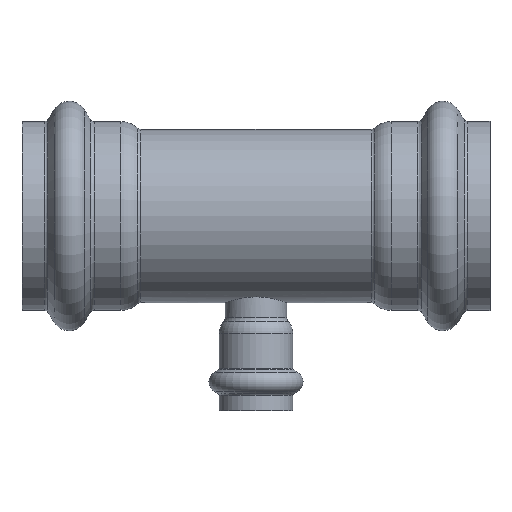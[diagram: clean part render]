
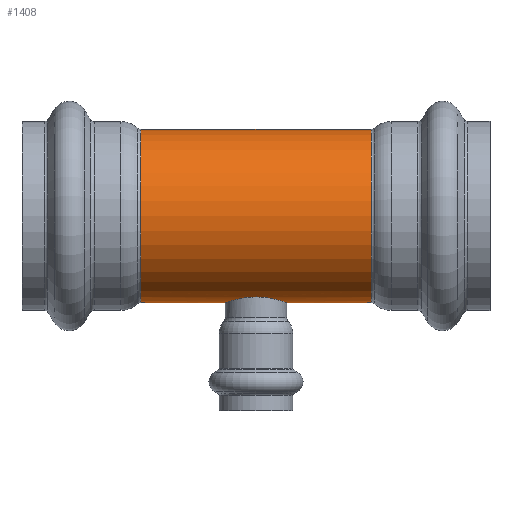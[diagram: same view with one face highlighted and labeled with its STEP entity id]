
A CAD part, top view. The second image highlights one B-rep face of the part: STEP entity #1408.
In plain terms, the highlighted cylindrical face has radius 30.163 mm (diameter 60.325 mm), a full revolution.
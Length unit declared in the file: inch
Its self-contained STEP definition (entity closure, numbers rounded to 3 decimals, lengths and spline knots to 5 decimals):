
#134=FACE_OUTER_BOUND('',#197,.T.);
#197=EDGE_LOOP('',(#1132,#1133,#1134,#1135,#1136,#1137,#1138,#1139,#1140,
#1141,#1142,#1143,#1144,#1145));
#334=CIRCLE('',#1605,1.1875);
#335=CIRCLE('',#1606,1.1875);
#336=CIRCLE('',#1607,1.1875);
#337=CIRCLE('',#1609,1.1875);
#338=CIRCLE('',#1610,1.1875);
#339=CIRCLE('',#1611,1.1875);
#420=LINE('',#2622,#450);
#421=LINE('',#2623,#451);
#450=VECTOR('',#2052,1.1875);
#451=VECTOR('',#2053,1.1875);
#460=B_SPLINE_CURVE_WITH_KNOTS('',3,(#2252,#2253,#2254,#2255,#2256,#2257,
#2258,#2259,#2260,#2261),.UNSPECIFIED.,.F.,.F.,(4,2,2,2,4),(0.,0.4058,
0.8116,1.21715,1.62271),.UNSPECIFIED.);
#461=B_SPLINE_CURVE_WITH_KNOTS('',3,(#2263,#2264,#2265,#2266,#2267,#2268,
#2269,#2270,#2271,#2272),.UNSPECIFIED.,.F.,.F.,(4,2,2,2,4),(4.86813,
5.27368,5.67924,6.08504,6.49084),
 .UNSPECIFIED.);
#462=B_SPLINE_CURVE_WITH_KNOTS('',3,(#2274,#2275,#2276,#2277,#2278,#2279,
#2280,#2281,#2282,#2283),.UNSPECIFIED.,.F.,.F.,(4,2,2,2,4),(3.24542,
3.65122,4.05701,4.46257,4.86813),
 .UNSPECIFIED.);
#463=B_SPLINE_CURVE_WITH_KNOTS('',3,(#2289,#2290,#2291,#2292,#2293,#2294,
#2295,#2296,#2297,#2298),.UNSPECIFIED.,.F.,.F.,(4,2,2,2,4),(1.62271,
2.02827,2.43382,2.83962,3.24542),
 .UNSPECIFIED.);
#468=VERTEX_POINT('',#2250);
#469=VERTEX_POINT('',#2251);
#470=VERTEX_POINT('',#2262);
#471=VERTEX_POINT('',#2273);
#572=VERTEX_POINT('',#2609);
#573=VERTEX_POINT('',#2611);
#574=VERTEX_POINT('',#2613);
#575=VERTEX_POINT('',#2617);
#576=VERTEX_POINT('',#2618);
#577=VERTEX_POINT('',#2620);
#628=EDGE_CURVE('',#468,#469,#460,.T.);
#629=EDGE_CURVE('',#470,#468,#461,.T.);
#630=EDGE_CURVE('',#471,#470,#462,.T.);
#634=EDGE_CURVE('',#469,#471,#463,.T.);
#772=EDGE_CURVE('',#573,#572,#334,.T.);
#773=EDGE_CURVE('',#574,#573,#335,.T.);
#774=EDGE_CURVE('',#572,#574,#336,.T.);
#775=EDGE_CURVE('',#575,#576,#337,.T.);
#776=EDGE_CURVE('',#577,#575,#338,.T.);
#777=EDGE_CURVE('',#577,#469,#420,.T.);
#778=EDGE_CURVE('',#470,#574,#421,.T.);
#779=EDGE_CURVE('',#576,#577,#339,.T.);
#1132=ORIENTED_EDGE('',*,*,#775,.F.);
#1133=ORIENTED_EDGE('',*,*,#776,.F.);
#1134=ORIENTED_EDGE('',*,*,#777,.T.);
#1135=ORIENTED_EDGE('',*,*,#634,.T.);
#1136=ORIENTED_EDGE('',*,*,#630,.T.);
#1137=ORIENTED_EDGE('',*,*,#778,.T.);
#1138=ORIENTED_EDGE('',*,*,#773,.T.);
#1139=ORIENTED_EDGE('',*,*,#772,.T.);
#1140=ORIENTED_EDGE('',*,*,#774,.T.);
#1141=ORIENTED_EDGE('',*,*,#778,.F.);
#1142=ORIENTED_EDGE('',*,*,#629,.T.);
#1143=ORIENTED_EDGE('',*,*,#628,.T.);
#1144=ORIENTED_EDGE('',*,*,#777,.F.);
#1145=ORIENTED_EDGE('',*,*,#779,.F.);
#1299=CYLINDRICAL_SURFACE('',#1608,1.1875);
#1408=ADVANCED_FACE('',(#134),#1299,.T.);
#1605=AXIS2_PLACEMENT_3D('',#2612,#2040,#2041);
#1606=AXIS2_PLACEMENT_3D('',#2614,#2042,#2043);
#1607=AXIS2_PLACEMENT_3D('',#2615,#2044,#2045);
#1608=AXIS2_PLACEMENT_3D('',#2616,#2046,#2047);
#1609=AXIS2_PLACEMENT_3D('',#2619,#2048,#2049);
#1610=AXIS2_PLACEMENT_3D('',#2621,#2050,#2051);
#1611=AXIS2_PLACEMENT_3D('',#2624,#2054,#2055);
#2040=DIRECTION('center_axis',(1.,0.,0.));
#2041=DIRECTION('ref_axis',(0.,1.,0.));
#2042=DIRECTION('center_axis',(1.,0.,0.));
#2043=DIRECTION('ref_axis',(0.,1.,0.));
#2044=DIRECTION('center_axis',(1.,0.,0.));
#2045=DIRECTION('ref_axis',(0.,1.,0.));
#2046=DIRECTION('center_axis',(1.,0.,0.));
#2047=DIRECTION('ref_axis',(0.,1.,0.));
#2048=DIRECTION('center_axis',(1.,0.,0.));
#2049=DIRECTION('ref_axis',(0.,1.,0.));
#2050=DIRECTION('center_axis',(1.,0.,0.));
#2051=DIRECTION('ref_axis',(0.,1.,0.));
#2052=DIRECTION('',(-1.,0.,0.));
#2053=DIRECTION('',(-1.,0.,0.));
#2054=DIRECTION('center_axis',(1.,0.,0.));
#2055=DIRECTION('ref_axis',(0.,1.,0.));
#2250=CARTESIAN_POINT('',(0.,-1.11075,0.42));
#2251=CARTESIAN_POINT('',(0.42,-1.1875,0.));
#2252=CARTESIAN_POINT('Ctrl Pts',(0.,-1.11075,0.42));
#2253=CARTESIAN_POINT('Ctrl Pts',(0.05325,-1.11075,
0.42));
#2254=CARTESIAN_POINT('Ctrl Pts',(0.10971,-1.11498,0.40926));
#2255=CARTESIAN_POINT('Ctrl Pts',(0.21303,-1.12983,0.36627));
#2256=CARTESIAN_POINT('Ctrl Pts',(0.25994,-1.1402,0.33403));
#2257=CARTESIAN_POINT('Ctrl Pts',(0.33401,-1.15933,0.25996));
#2258=CARTESIAN_POINT('Ctrl Pts',(0.36626,-1.1694,0.21304));
#2259=CARTESIAN_POINT('Ctrl Pts',(0.40927,-1.18357,0.10969));
#2260=CARTESIAN_POINT('Ctrl Pts',(0.42,-1.1875,0.05322));
#2261=CARTESIAN_POINT('Ctrl Pts',(0.42,-1.1875,0.));
#2262=CARTESIAN_POINT('',(-0.42,-1.1875,0.));
#2263=CARTESIAN_POINT('Ctrl Pts',(-0.42,-1.1875,0.));
#2264=CARTESIAN_POINT('Ctrl Pts',(-0.42,-1.1875,0.05322));
#2265=CARTESIAN_POINT('Ctrl Pts',(-0.40927,-1.18357,0.10969));
#2266=CARTESIAN_POINT('Ctrl Pts',(-0.36626,-1.1694,
0.21304));
#2267=CARTESIAN_POINT('Ctrl Pts',(-0.33401,-1.15933,0.25996));
#2268=CARTESIAN_POINT('Ctrl Pts',(-0.25994,-1.1402,
0.33403));
#2269=CARTESIAN_POINT('Ctrl Pts',(-0.21303,-1.12983,
0.36627));
#2270=CARTESIAN_POINT('Ctrl Pts',(-0.10971,-1.11498,
0.40926));
#2271=CARTESIAN_POINT('Ctrl Pts',(-0.05325,-1.11075,
0.42));
#2272=CARTESIAN_POINT('Ctrl Pts',(0.,-1.11075,0.42));
#2273=CARTESIAN_POINT('',(0.,-1.11075,-0.42));
#2274=CARTESIAN_POINT('Ctrl Pts',(0.,-1.11075,-0.42));
#2275=CARTESIAN_POINT('Ctrl Pts',(-0.05325,-1.11075,
-0.42));
#2276=CARTESIAN_POINT('Ctrl Pts',(-0.10971,-1.11498,
-0.40926));
#2277=CARTESIAN_POINT('Ctrl Pts',(-0.21303,-1.12983,
-0.36627));
#2278=CARTESIAN_POINT('Ctrl Pts',(-0.25994,-1.1402,
-0.33403));
#2279=CARTESIAN_POINT('Ctrl Pts',(-0.33401,-1.15933,-0.25996));
#2280=CARTESIAN_POINT('Ctrl Pts',(-0.36626,-1.1694,
-0.21304));
#2281=CARTESIAN_POINT('Ctrl Pts',(-0.40927,-1.18357,-0.10969));
#2282=CARTESIAN_POINT('Ctrl Pts',(-0.42,-1.1875,-0.05322));
#2283=CARTESIAN_POINT('Ctrl Pts',(-0.42,-1.1875,0.));
#2289=CARTESIAN_POINT('Ctrl Pts',(0.42,-1.1875,0.));
#2290=CARTESIAN_POINT('Ctrl Pts',(0.42,-1.1875,-0.05322));
#2291=CARTESIAN_POINT('Ctrl Pts',(0.40927,-1.18357,-0.10969));
#2292=CARTESIAN_POINT('Ctrl Pts',(0.36626,-1.1694,-0.21304));
#2293=CARTESIAN_POINT('Ctrl Pts',(0.33401,-1.15933,-0.25996));
#2294=CARTESIAN_POINT('Ctrl Pts',(0.25994,-1.1402,-0.33403));
#2295=CARTESIAN_POINT('Ctrl Pts',(0.21303,-1.12983,-0.36627));
#2296=CARTESIAN_POINT('Ctrl Pts',(0.10971,-1.11498,-0.40926));
#2297=CARTESIAN_POINT('Ctrl Pts',(0.05325,-1.11075,
-0.42));
#2298=CARTESIAN_POINT('Ctrl Pts',(0.,-1.11075,-0.42));
#2609=CARTESIAN_POINT('',(-1.58035,0.,1.1875));
#2611=CARTESIAN_POINT('',(-1.58035,1.1875,0.));
#2612=CARTESIAN_POINT('Origin',(-1.58035,0.,0.));
#2613=CARTESIAN_POINT('',(-1.58035,-1.1875,0.));
#2614=CARTESIAN_POINT('Origin',(-1.58035,0.,0.));
#2615=CARTESIAN_POINT('Origin',(-1.58035,0.,0.));
#2616=CARTESIAN_POINT('Origin',(0.79018,0.,0.));
#2617=CARTESIAN_POINT('',(1.58035,1.1875,0.));
#2618=CARTESIAN_POINT('',(1.58035,0.,1.1875));
#2619=CARTESIAN_POINT('Origin',(1.58035,0.,0.));
#2620=CARTESIAN_POINT('',(1.58035,-1.1875,0.));
#2621=CARTESIAN_POINT('Origin',(1.58035,0.,0.));
#2622=CARTESIAN_POINT('',(0.79018,-1.1875,0.));
#2623=CARTESIAN_POINT('',(0.79018,-1.1875,0.));
#2624=CARTESIAN_POINT('Origin',(1.58035,0.,0.));
